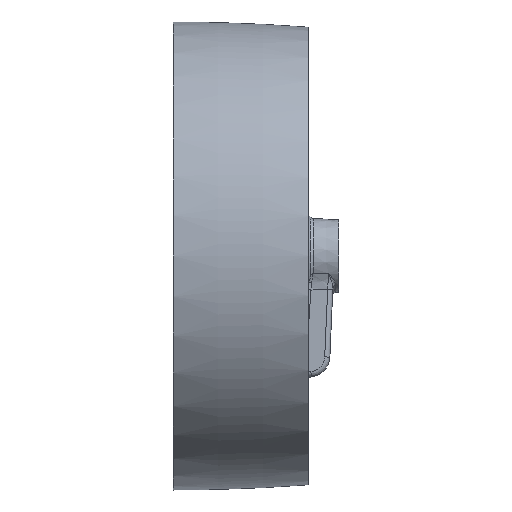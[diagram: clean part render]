
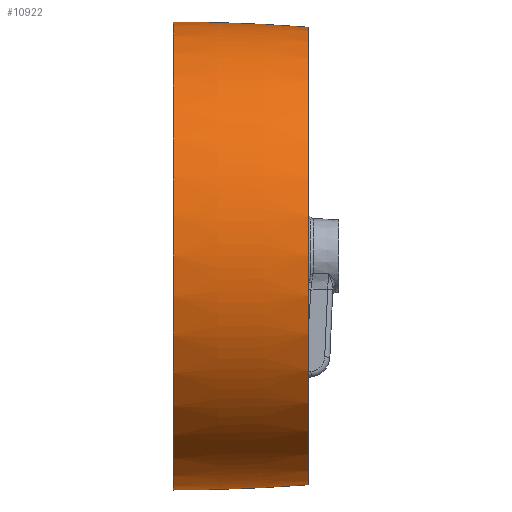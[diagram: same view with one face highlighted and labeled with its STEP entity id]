
A CAD part, left-side view. The second image highlights one B-rep face of the part: STEP entity #10922.
In plain terms, the highlighted toroidal (fillet/blend) face has major radius 1561.17 mm and minor radius 1800.53 mm.
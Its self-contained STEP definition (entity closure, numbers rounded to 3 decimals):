
#1516 = AXIS2_PLACEMENT_3D ( 'NONE', #29583, #24338, #4278 ) ;
#1521 = FACE_OUTER_BOUND ( 'NONE', #12179, .T. ) ;
#1713 = DIRECTION ( 'NONE',  ( 0., 1., 0. ) ) ;
#4278 = DIRECTION ( 'NONE',  ( 0., 0., 1. ) ) ;
#4294 = DIRECTION ( 'NONE',  ( 0., 1., 0. ) ) ;
#6271 = AXIS2_PLACEMENT_3D ( 'NONE', #26579, #24617, #11617 ) ;
#6486 = CARTESIAN_POINT ( 'NONE',  ( 0., -25.086, 239.362 ) ) ;
#7335 = AXIS2_PLACEMENT_3D ( 'NONE', #14458, #4294, #18904 ) ;
#8323 = EDGE_CURVE ( 'NONE', #19857, #31221, #16071, .T. ) ;
#10922 = ADVANCED_FACE ( 'NONE', ( #1521 ), #26739, .T. ) ;
#11280 = EDGE_CURVE ( 'NONE', #12947, #19857, #20418, .T. ) ;
#11617 = DIRECTION ( 'NONE',  ( 0., 0., -1. ) ) ;
#11710 = DIRECTION ( 'NONE',  ( 0., 0., 1. ) ) ;
#12179 = EDGE_LOOP ( 'NONE', ( #21507, #20574, #31640, #13179 ) ) ;
#12947 = VERTEX_POINT ( 'NONE', #19730 ) ;
#13179 = ORIENTED_EDGE ( 'NONE', *, *, #8323, .F. ) ;
#14458 = CARTESIAN_POINT ( 'NONE',  ( 0., -25.086, 0. ) ) ;
#15312 = CARTESIAN_POINT ( 'NONE',  ( 0., -163.384, 0. ) ) ;
#16071 = CIRCLE ( 'NONE', #17648, 239.362 ) ;
#17648 = AXIS2_PLACEMENT_3D ( 'NONE', #24225, #1713, #11710 ) ;
#18233 = CIRCLE ( 'NONE', #19277, 234.043 ) ;
#18904 = DIRECTION ( 'NONE',  ( 0., 0., 1. ) ) ;
#19277 = AXIS2_PLACEMENT_3D ( 'NONE', #15312, #25373, #28143 ) ;
#19730 = CARTESIAN_POINT ( 'NONE',  ( 0., -163.384, -234.043 ) ) ;
#19857 = VERTEX_POINT ( 'NONE', #29423 ) ;
#20418 = CIRCLE ( 'NONE', #6271, 1800.532 ) ;
#20574 = ORIENTED_EDGE ( 'NONE', *, *, #32179, .T. ) ;
#20629 = CARTESIAN_POINT ( 'NONE',  ( 0., -163.384, 234.043 ) ) ;
#21507 = ORIENTED_EDGE ( 'NONE', *, *, #11280, .F. ) ;
#24225 = CARTESIAN_POINT ( 'NONE',  ( 0., -25.086, 0. ) ) ;
#24338 = DIRECTION ( 'NONE',  ( -1., 0., 0. ) ) ;
#24617 = DIRECTION ( 'NONE',  ( 1., 0., 0. ) ) ;
#25373 = DIRECTION ( 'NONE',  ( 0., 1., 0. ) ) ;
#25862 = VERTEX_POINT ( 'NONE', #20629 ) ;
#26579 = CARTESIAN_POINT ( 'NONE',  ( 0., -25.086, 1561.171 ) ) ;
#26739 = TOROIDAL_SURFACE ( 'NONE', #7335, -1561.171, 1800.532 ) ;
#28143 = DIRECTION ( 'NONE',  ( 0., 0., 1. ) ) ;
#29423 = CARTESIAN_POINT ( 'NONE',  ( 0., -25.086, -239.362 ) ) ;
#29583 = CARTESIAN_POINT ( 'NONE',  ( 0., -25.086, -1561.171 ) ) ;
#30440 = EDGE_CURVE ( 'NONE', #25862, #31221, #31935, .T. ) ;
#31221 = VERTEX_POINT ( 'NONE', #6486 ) ;
#31640 = ORIENTED_EDGE ( 'NONE', *, *, #30440, .T. ) ;
#31935 = CIRCLE ( 'NONE', #1516, 1800.532 ) ;
#32179 = EDGE_CURVE ( 'NONE', #12947, #25862, #18233, .T. ) ;
